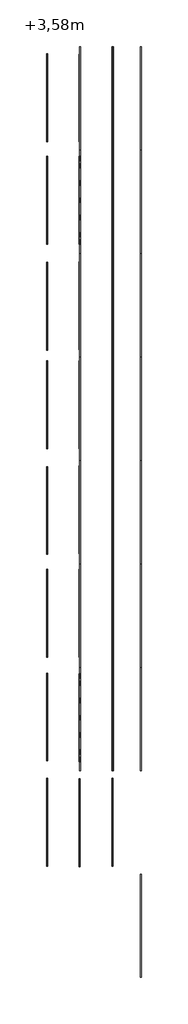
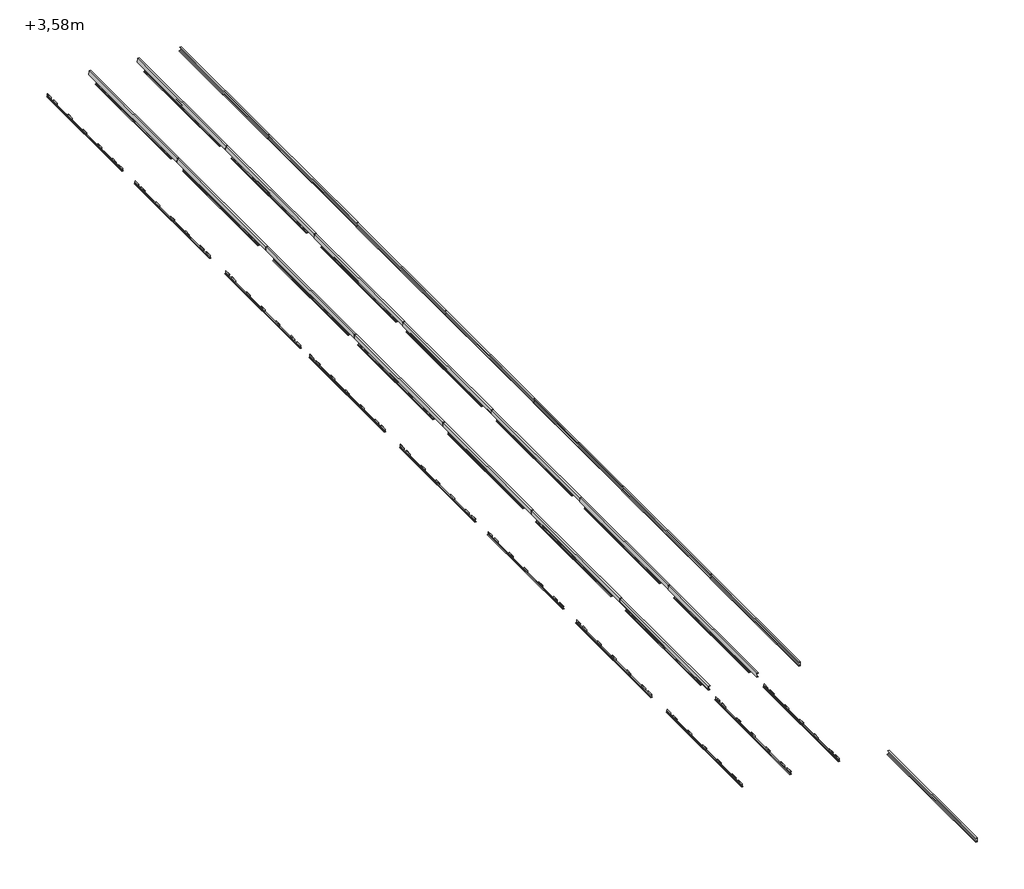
# One storey: 46 beams.
"""IFC4 building model written with IfcOpenShell, lengths in millimetres."""

from ifc_helpers import new_model, si_unit, origin, place, context, project, spatial, transform, mapped, element, save
from components import beam_1_2i120_fef7989f, c160_97cef8d6, c160_676f0d43, c160_1365dad8

model = new_model("IFC4")

# Units and contexts
model_context = context("Model", 3, world=origin())
ifc_project = project(units=[si_unit("LENGTHUNIT", "METRE", prefix="MILLI")], contexts=[model_context])

# Site, building, storey
site = spatial("IfcSite", under=ifc_project)
building = spatial("IfcBuilding", under=site)
storey = spatial("IfcBuildingStorey", under=building, Name="+3,58m", Elevation=3580.0)

# Beams
placement = place(None, origin())
beam_1_2i120_shape = beam_1_2i120_fef7989f(model_context)
element("IfcBeam", 1, ObjectType="Wzmocnienie do belek - dokładny podział : 1/2I120", at=placement, inside=storey, context=model_context, shape_type="MappedRepresentation", body=[
    mapped(beam_1_2i120_shape, transform((6348.3479236, -30445.2129605, 4070.7027211), x_axis=(0.0, 1.0, 0.0), y_axis=(-0.997461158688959, 0.0, 0.07121261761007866), z_axis=(0.07121261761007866, 0.0, 0.997461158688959))),
])
element("IfcBeam", 2, ObjectType="Wzmocnienie do belek - dokładny podział : 1/2I120", at=placement, inside=storey, context=model_context, shape_type="MappedRepresentation", body=[
    mapped(beam_1_2i120_shape, transform((8243.9111373, -30470.6776346, 3935.3711173), x_axis=(0.0, 1.0, 0.0), y_axis=(-0.997461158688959, 0.0, 0.07121261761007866), z_axis=(0.07121261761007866, 0.0, 0.997461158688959))),
])
element("IfcBeam", 3, ObjectType="Wzmocnienie do belek - dokładny podział : 1/2I120", at=placement, inside=storey, context=model_context, shape_type="MappedRepresentation", body=[
    mapped(beam_1_2i120_shape, transform((10140.0451321, -30456.5566527, 3799.9987633), x_axis=(0.0, 1.0, 0.0), y_axis=(-0.997461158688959, 0.0, 0.07121261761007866), z_axis=(0.07121261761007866, 0.0, 0.997461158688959))),
])
element("IfcBeam", 4, ObjectType="Wzmocnienie do belek - dokładny podział : 1/2I120", at=placement, inside=storey, context=model_context, shape_type="MappedRepresentation", body=[
    mapped(beam_1_2i120_shape, transform((6338.6215985, -24341.4095905, 4071.3971211), x_axis=(0.0, 1.0, 0.0), y_axis=(-0.997461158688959, 0.0, 0.07121261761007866), z_axis=(0.07121261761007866, 0.0, 0.997461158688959))),
])
element("IfcBeam", 5, ObjectType="Wzmocnienie do belek - dokładny podział : 1/2I120", at=placement, inside=storey, context=model_context, shape_type="MappedRepresentation", body=[
    mapped(beam_1_2i120_shape, transform((8246.7366501, -24384.2956708, 3935.169393), x_axis=(0.0, 1.0, 0.0), y_axis=(-0.997461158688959, 0.0, 0.07121261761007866), z_axis=(0.07121261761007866, 0.0, 0.997461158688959))),
])
element("IfcBeam", 6, ObjectType="Wzmocnienie do belek - dokładny podział : 1/2I120", at=placement, inside=storey, context=model_context, shape_type="MappedRepresentation", body=[
    mapped(beam_1_2i120_shape, transform((10148.6738726, -24390.6886719, 3799.3827241), x_axis=(0.0, 1.0, 0.0), y_axis=(-0.997461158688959, 0.0, 0.07121261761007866), z_axis=(0.07121261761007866, 0.0, 0.997461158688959))),
])
element("IfcBeam", 7, ObjectType="Wzmocnienie do belek - dokładny podział : 1/2I120", at=placement, inside=storey, context=model_context, shape_type="MappedRepresentation", body=[
    mapped(beam_1_2i120_shape, transform((6353.9069813, -18323.485195, 4070.3058384), x_axis=(0.0, 1.0, 0.0), y_axis=(-0.997461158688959, 0.0, 0.07121261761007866), z_axis=(0.07121261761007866, 0.0, 0.997461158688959))),
])
element("IfcBeam", 8, ObjectType="Wzmocnienie do belek - dokładny podział : 1/2I120", at=placement, inside=storey, context=model_context, shape_type="MappedRepresentation", body=[
    mapped(beam_1_2i120_shape, transform((8243.7590061, -18330.9109397, 3935.3819786), x_axis=(0.0, 1.0, 0.0), y_axis=(-0.997461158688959, 0.0, 0.07121261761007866), z_axis=(0.07121261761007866, 0.0, 0.997461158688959))),
])
element("IfcBeam", 9, ObjectType="Wzmocnienie do belek - dokładny podział : 1/2I120", at=placement, inside=storey, context=model_context, shape_type="MappedRepresentation", body=[
    mapped(beam_1_2i120_shape, transform((10145.8924773, -18308.1231311, 3799.5812987), x_axis=(0.0, 1.0, 0.0), y_axis=(-0.997461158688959, 0.0, 0.07121261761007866), z_axis=(0.07121261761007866, 0.0, 0.997461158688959))),
])
element("IfcBeam", 10, ObjectType="Wzmocnienie do belek - dokładny podział : 1/2I120", at=placement, inside=storey, context=model_context, shape_type="MappedRepresentation", body=[
    mapped(beam_1_2i120_shape, transform((6348.2725201, -12368.4269213, 4070.7081044), x_axis=(0.0, 1.0, 0.0), y_axis=(-0.997461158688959, 0.0, 0.07121261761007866), z_axis=(0.07121261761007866, 0.0, 0.997461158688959))),
])
element("IfcBeam", 11, ObjectType="Wzmocnienie do belek - dokładny podział : 1/2I120", at=placement, inside=storey, context=model_context, shape_type="MappedRepresentation", body=[
    mapped(beam_1_2i120_shape, transform((8247.870597, -12334.4186178, 3935.0884361), x_axis=(0.0, 1.0, 0.0), y_axis=(-0.997461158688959, 0.0, 0.07121261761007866), z_axis=(0.07121261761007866, 0.0, 0.997461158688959))),
])
element("IfcBeam", 12, ObjectType="Wzmocnienie do belek - dokładny podział : 1/2I120", at=placement, inside=storey, context=model_context, shape_type="MappedRepresentation", body=[
    mapped(beam_1_2i120_shape, transform((10150.9278839, -12330.6896026, 3799.2218015), x_axis=(0.0, 1.0, 0.0), y_axis=(-0.997461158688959, 0.0, 0.07121261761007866), z_axis=(0.07121261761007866, 0.0, 0.997461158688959))),
])
element("IfcBeam", 13, ObjectType="Wzmocnienie do belek - dokładny podział : 1/2I120", at=placement, inside=storey, context=model_context, shape_type="MappedRepresentation", body=[
    mapped(beam_1_2i120_shape, transform((6350.8816362, -6234.3166348, 4070.5218295), x_axis=(0.0, 1.0, 0.0), y_axis=(-0.997461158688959, 0.0, 0.07121261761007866), z_axis=(0.07121261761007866, 0.0, 0.997461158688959))),
])
element("IfcBeam", 14, ObjectType="Wzmocnienie do belek - dokładny podział : 1/2I120", at=placement, inside=storey, context=model_context, shape_type="MappedRepresentation", body=[
    mapped(beam_1_2i120_shape, transform((8248.1594056, -6245.4552518, 3935.067817), x_axis=(0.0, 1.0, 0.0), y_axis=(-0.997461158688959, 0.0, 0.07121261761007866), z_axis=(0.07121261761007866, 0.0, 0.997461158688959))),
])
element("IfcBeam", 15, ObjectType="Wzmocnienie do belek - dokładny podział : 1/2I120", at=placement, inside=storey, context=model_context, shape_type="MappedRepresentation", body=[
    mapped(beam_1_2i120_shape, transform((10141.120961, -6240.4521563, 3799.9219557), x_axis=(0.0, 1.0, 0.0), y_axis=(-0.997461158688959, 0.0, 0.07121261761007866), z_axis=(0.07121261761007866, 0.0, 0.997461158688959))),
])
element("IfcBeam", 16, ObjectType="Wzmocnienie do belek - dokładny podział : 1/2I120", at=placement, inside=storey, context=model_context, shape_type="MappedRepresentation", body=[
    mapped(beam_1_2i120_shape, transform((6350.0807138, -519.7263085, 4070.5790105), x_axis=(0.0, 1.0, 0.0), y_axis=(-0.997461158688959, 0.0, 0.07121261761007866), z_axis=(0.07121261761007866, 0.0, 0.997461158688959))),
])
element("IfcBeam", 17, ObjectType="Wzmocnienie do belek - dokładny podział : 1/2I120", at=placement, inside=storey, context=model_context, shape_type="MappedRepresentation", body=[
    mapped(beam_1_2i120_shape, transform((8248.286649, -495.4150137, 3935.0587326), x_axis=(0.0, 1.0, 0.0), y_axis=(-0.997461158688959, 0.0, 0.07121261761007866), z_axis=(0.07121261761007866, 0.0, 0.997461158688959))),
])
element("IfcBeam", 18, ObjectType="Wzmocnienie do belek - dokładny podział : 1/2I120", at=placement, inside=storey, context=model_context, shape_type="MappedRepresentation", body=[
    mapped(beam_1_2i120_shape, transform((10145.9315005, -458.9409785, 3799.5785126), x_axis=(0.0, 1.0, 0.0), y_axis=(-0.997461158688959, 0.0, 0.07121261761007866), z_axis=(0.07121261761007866, 0.0, 0.997461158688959))),
])
element("IfcBeam", 19, ObjectType="Wzmocnienie do belek - dokładny podział : 1/2I120", at=placement, inside=storey, context=model_context, shape_type="MappedRepresentation", body=[
    mapped(beam_1_2i120_shape, transform((6349.2964365, 5621.8557396, 4070.6350031), x_axis=(0.0, 1.0, 0.0), y_axis=(-0.997461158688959, 0.0, 0.07121261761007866), z_axis=(0.07121261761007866, 0.0, 0.997461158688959))),
])
element("IfcBeam", 20, ObjectType="Wzmocnienie do belek - dokładny podział : 1/2I120", at=placement, inside=storey, context=model_context, shape_type="MappedRepresentation", body=[
    mapped(beam_1_2i120_shape, transform((8245.0890571, 5617.5859364, 3935.2870211), x_axis=(0.0, 1.0, 0.0), y_axis=(-0.997461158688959, 0.0, 0.07121261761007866), z_axis=(0.07121261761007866, 0.0, 0.997461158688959))),
])
element("IfcBeam", 21, ObjectType="Wzmocnienie do belek - dokładny podział : 1/2I120", at=placement, inside=storey, context=model_context, shape_type="MappedRepresentation", body=[
    mapped(beam_1_2i120_shape, transform((10140.8816776, 5609.04633, 3799.9390391), x_axis=(0.0, 1.0, 0.0), y_axis=(-0.997461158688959, 0.0, 0.07121261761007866), z_axis=(0.07121261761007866, 0.0, 0.997461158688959))),
])
element("IfcBeam", 22, ObjectType="Wzmocnienie do belek - dokładny podział : 1/2I120", at=placement, inside=storey, context=model_context, shape_type="MappedRepresentation", body=[
    mapped(beam_1_2i120_shape, transform((6351.2567001, 11567.911293, 4070.4950523), x_axis=(0.0, 1.0, 0.0), y_axis=(-0.997461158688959, 0.0, 0.07121261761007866), z_axis=(0.07121261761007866, 0.0, 0.997461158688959))),
])
element("IfcBeam", 23, ObjectType="Wzmocnienie do belek - dokładny podział : 1/2I120", at=placement, inside=storey, context=model_context, shape_type="MappedRepresentation", body=[
    mapped(beam_1_2i120_shape, transform((8247.0493206, 11546.562277, 3935.1470702), x_axis=(0.0, 1.0, 0.0), y_axis=(-0.997461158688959, 0.0, 0.07121261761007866), z_axis=(0.07121261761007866, 0.0, 0.997461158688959))),
])
element("IfcBeam", 24, ObjectType="Wzmocnienie do belek - dokładny podział : 1/2I120", at=placement, inside=storey, context=model_context, shape_type="MappedRepresentation", body=[
    mapped(beam_1_2i120_shape, transform((10141.3075166, 11529.0670514, 3799.9086368), x_axis=(0.0, 1.0, 0.0), y_axis=(-0.997461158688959, 0.0, 0.07121261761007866), z_axis=(0.07121261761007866, 0.0, 0.997461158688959))),
])
c160_shape = c160_97cef8d6(model_context)
element("IfcBeam", 25, ObjectType="RPLN C - Ceowniki normalne : C160", at=placement, inside=storey, context=model_context, shape_type="MappedRepresentation", body=[
    mapped(c160_shape, transform((11806.0493936, 14087.5183415, 3761.259887), x_axis=(0.0, -1.0, 0.0), y_axis=(0.997461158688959, 0.0, -0.07121261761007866), z_axis=(0.07121261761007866, 0.0, 0.997461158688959))),
])
c160_2_shape = c160_676f0d43(model_context)
element("IfcBeam", 26, ObjectType="RPLN C - Ceowniki normalne : C160", at=placement, inside=storey, context=model_context, shape_type="MappedRepresentation", body=[
    mapped(c160_2_shape, transform((8239.4941285, 14087.5183415, 4015.890089), x_axis=(0.0, 1.0, 0.0), y_axis=(-0.997461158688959, 0.0, 0.07121261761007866), z_axis=(0.07121261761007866, 0.0, 0.997461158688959))),
])
element("IfcBeam", 27, ObjectType="RPLN C - Ceowniki normalne : C160", at=placement, inside=storey, context=model_context, shape_type="MappedRepresentation", body=[
    mapped(c160_2_shape, transform((10134.6671984, 14087.5183415, 3880.5863391), x_axis=(0.0, 1.0, 0.0), y_axis=(-0.997461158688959, 0.0, 0.07121261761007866), z_axis=(0.07121261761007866, 0.0, 0.997461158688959))),
])
element("IfcBeam", 28, ObjectType="RPLN C - Ceowniki normalne : C160", at=placement, inside=storey, context=model_context, shape_type="MappedRepresentation", body=[
    mapped(c160_2_shape, transform((11806.0493936, -33912.4816585, 3761.259887), x_axis=(0.0, -1.0, 0.0), y_axis=(0.997461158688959, 0.0, -0.07121261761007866), z_axis=(0.07121261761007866, 0.0, 0.997461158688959))),
])
element("IfcBeam", 29, ObjectType="RPLN C - Ceowniki normalne : C160", at=placement, inside=storey, context=model_context, shape_type="MappedRepresentation", body=[
    mapped(c160_shape, transform((8239.4941285, -21912.4816585, 4015.890089), x_axis=(0.0, 1.0, 0.0), y_axis=(-0.997461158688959, 0.0, 0.07121261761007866), z_axis=(0.07121261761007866, 0.0, 0.997461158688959))),
])
element("IfcBeam", 30, ObjectType="RPLN C - Ceowniki normalne : C160", at=placement, inside=storey, context=model_context, shape_type="MappedRepresentation", body=[
    mapped(c160_shape, transform((10134.6671984, -21912.4816585, 3880.5863391), x_axis=(0.0, 1.0, 0.0), y_axis=(-0.997461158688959, 0.0, 0.07121261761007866), z_axis=(0.07121261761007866, 0.0, 0.997461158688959))),
])
element("IfcBeam", 31, ObjectType="RPLN C - Ceowniki normalne : C160", at=placement, inside=storey, context=model_context, shape_type="MappedRepresentation", body=[
    mapped(c160_shape, transform((8239.4941285, -15912.4816585, 4015.890089), x_axis=(0.0, 1.0, 0.0), y_axis=(-0.997461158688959, 0.0, 0.07121261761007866), z_axis=(0.07121261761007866, 0.0, 0.997461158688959))),
])
element("IfcBeam", 32, ObjectType="RPLN C - Ceowniki normalne : C160", at=placement, inside=storey, context=model_context, shape_type="MappedRepresentation", body=[
    mapped(c160_shape, transform((10134.6671984, -15912.4816585, 3880.5863391), x_axis=(0.0, 1.0, 0.0), y_axis=(-0.997461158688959, 0.0, 0.07121261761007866), z_axis=(0.07121261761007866, 0.0, 0.997461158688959))),
])
element("IfcBeam", 33, ObjectType="RPLN C - Ceowniki normalne : C160", at=placement, inside=storey, context=model_context, shape_type="MappedRepresentation", body=[
    mapped(c160_shape, transform((8239.4941285, -9912.4816585, 4015.890089), x_axis=(0.0, 1.0, 0.0), y_axis=(-0.997461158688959, 0.0, 0.07121261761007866), z_axis=(0.07121261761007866, 0.0, 0.997461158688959))),
])
element("IfcBeam", 34, ObjectType="RPLN C - Ceowniki normalne : C160", at=placement, inside=storey, context=model_context, shape_type="MappedRepresentation", body=[
    mapped(c160_shape, transform((10134.6671984, -9912.4816585, 3880.5863391), x_axis=(0.0, 1.0, 0.0), y_axis=(-0.997461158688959, 0.0, 0.07121261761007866), z_axis=(0.07121261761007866, 0.0, 0.997461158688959))),
])
element("IfcBeam", 35, ObjectType="RPLN C - Ceowniki normalne : C160", at=placement, inside=storey, context=model_context, shape_type="MappedRepresentation", body=[
    mapped(c160_shape, transform((8239.4941285, -3912.4816585, 4015.890089), x_axis=(0.0, 1.0, 0.0), y_axis=(-0.997461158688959, 0.0, 0.07121261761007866), z_axis=(0.07121261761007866, 0.0, 0.997461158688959))),
])
element("IfcBeam", 36, ObjectType="RPLN C - Ceowniki normalne : C160", at=placement, inside=storey, context=model_context, shape_type="MappedRepresentation", body=[
    mapped(c160_shape, transform((10134.6671984, -3912.4816585, 3880.5863391), x_axis=(0.0, 1.0, 0.0), y_axis=(-0.997461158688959, 0.0, 0.07121261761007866), z_axis=(0.07121261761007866, 0.0, 0.997461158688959))),
])
element("IfcBeam", 37, ObjectType="RPLN C - Ceowniki normalne : C160", at=placement, inside=storey, context=model_context, shape_type="MappedRepresentation", body=[
    mapped(c160_shape, transform((8239.4941285, 2087.5183415, 4015.890089), x_axis=(0.0, 1.0, 0.0), y_axis=(-0.997461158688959, 0.0, 0.07121261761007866), z_axis=(0.07121261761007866, 0.0, 0.997461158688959))),
])
element("IfcBeam", 38, ObjectType="RPLN C - Ceowniki normalne : C160", at=placement, inside=storey, context=model_context, shape_type="MappedRepresentation", body=[
    mapped(c160_shape, transform((10134.6671984, 2087.5183415, 3880.5863391), x_axis=(0.0, 1.0, 0.0), y_axis=(-0.997461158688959, 0.0, 0.07121261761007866), z_axis=(0.07121261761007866, 0.0, 0.997461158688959))),
])
element("IfcBeam", 39, ObjectType="RPLN C - Ceowniki normalne : C160", at=placement, inside=storey, context=model_context, shape_type="MappedRepresentation", body=[
    mapped(c160_2_shape, transform((11806.0493936, -21912.4816585, 3761.259887), x_axis=(0.0, -1.0, 0.0), y_axis=(0.997461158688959, 0.0, -0.07121261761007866), z_axis=(0.07121261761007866, 0.0, 0.997461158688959))),
])
element("IfcBeam", 40, ObjectType="RPLN C - Ceowniki normalne : C160", at=placement, inside=storey, context=model_context, shape_type="MappedRepresentation", body=[
    mapped(c160_2_shape, transform((11806.0493936, -15912.4816585, 3761.259887), x_axis=(0.0, -1.0, 0.0), y_axis=(0.997461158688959, 0.0, -0.07121261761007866), z_axis=(0.07121261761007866, 0.0, 0.997461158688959))),
])
element("IfcBeam", 41, ObjectType="RPLN C - Ceowniki normalne : C160", at=placement, inside=storey, context=model_context, shape_type="MappedRepresentation", body=[
    mapped(c160_2_shape, transform((11806.0493936, -9912.4816585, 3761.259887), x_axis=(0.0, -1.0, 0.0), y_axis=(0.997461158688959, 0.0, -0.07121261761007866), z_axis=(0.07121261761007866, 0.0, 0.997461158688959))),
])
element("IfcBeam", 42, ObjectType="RPLN C - Ceowniki normalne : C160", at=placement, inside=storey, context=model_context, shape_type="MappedRepresentation", body=[
    mapped(c160_2_shape, transform((11806.0493936, -3912.4816585, 3761.259887), x_axis=(0.0, -1.0, 0.0), y_axis=(0.997461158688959, 0.0, -0.07121261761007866), z_axis=(0.07121261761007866, 0.0, 0.997461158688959))),
])
element("IfcBeam", 43, ObjectType="RPLN C - Ceowniki normalne : C160", at=placement, inside=storey, context=model_context, shape_type="MappedRepresentation", body=[
    mapped(c160_2_shape, transform((11806.0493936, 2087.5183415, 3761.259887), x_axis=(0.0, -1.0, 0.0), y_axis=(0.997461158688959, 0.0, -0.07121261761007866), z_axis=(0.07121261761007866, 0.0, 0.997461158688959))),
])
c160_3_shape = c160_1365dad8(model_context)
element("IfcBeam", 44, ObjectType="RPLN C - Ceowniki normalne : C160", at=placement, inside=storey, context=model_context, shape_type="MappedRepresentation", body=[
    mapped(c160_3_shape, transform((8239.4941285, 8087.5183415, 4015.890089), x_axis=(0.0, 1.0, 0.0), y_axis=(-0.997461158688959, 0.0, 0.07121261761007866), z_axis=(0.07121261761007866, 0.0, 0.997461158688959))),
])
element("IfcBeam", 45, ObjectType="RPLN C - Ceowniki normalne : C160", at=placement, inside=storey, context=model_context, shape_type="MappedRepresentation", body=[
    mapped(c160_3_shape, transform((10134.6671984, 8087.5183415, 3880.5863391), x_axis=(0.0, 1.0, 0.0), y_axis=(-0.997461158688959, 0.0, 0.07121261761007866), z_axis=(0.07121261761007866, 0.0, 0.997461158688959))),
])
element("IfcBeam", 46, ObjectType="RPLN C - Ceowniki normalne : C160", at=placement, inside=storey, context=model_context, shape_type="MappedRepresentation", body=[
    mapped(c160_3_shape, transform((11806.0493936, 8087.5183415, 3761.259887), x_axis=(0.0, -1.0, 0.0), y_axis=(0.997461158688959, 0.0, -0.07121261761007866), z_axis=(0.07121261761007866, 0.0, 0.997461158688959))),
])

save(model, "model.ifc")
